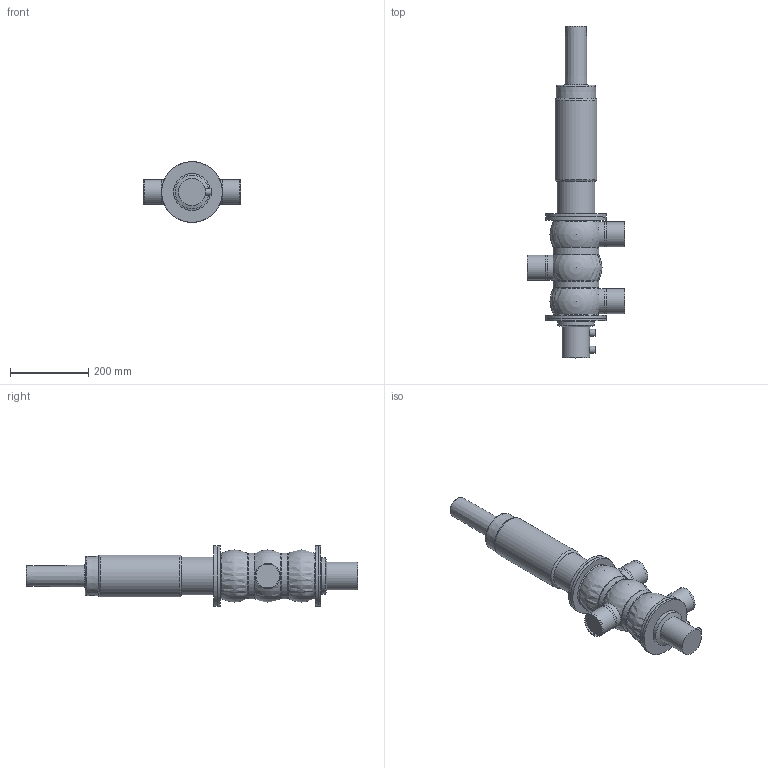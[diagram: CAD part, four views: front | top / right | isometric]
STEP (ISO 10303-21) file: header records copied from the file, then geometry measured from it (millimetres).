
FILE_DESCRIPTION(/* description */ ('Creo Elements/Direct Modeling STEP Export'),/* implementation_level */ '2;1');
FILE_NAME(/* name */ 'O:\Benutzer\Trimpop\DU4 SL\Makros\DU4 SL_VSM_stp\DU45(1-7-9)-2,5inch SL_VSM.stp',/* time_stamp */ '2021-10-01T14:15:00+02:00',/* author */ ('KERAMN'),/* organization */ (''),/* preprocessor_version */ 'ST-DEVELOPER v18.1',/* originating_system */ 'Autodesk Inventor 2020',/* authorisation */ '');
FILE_SCHEMA (('AUTOMOTIVE_DESIGN { 1 0 10303 214 3 1 1 }'));
Length unit declared in the file: millimetre
Products named in the file (6): DU45(1-7-9)-2,5inch SL_VSM; actuator_D4SL-100_yoke; DU45-2,5T(1-7-9)_Shrinkwrap_1; lid housing DU4-62 simplified; drain_pipe_62; D4_Prox._holder
Assembly tree (5 placements, depth 2):
  DU45(1-7-9)-2,5inch SL_VSM
    actuator_D4SL-100_yoke
    DU45-2,5T(1-7-9)_Shrinkwrap_1
    lid housing DU4-62 simplified
    drain_pipe_62
    D4_Prox._holder
Bounding box: 250 x 847.25 x 155 mm (x, y, z)
Volume: 7773673.8 mm3; surface area: 483364.8 mm2
Topology: 5 solids, 5 shells, 84 faces, 192 edges, 141 vertices
Faces by surface type: plane 35, cylinder 32, torus 7, cone 4, sphere 3, bspline 3
Full cylindrical faces by diameter (mm): 18 x2, 60 x1, 60.3 x3, 63.5 x3, 64.5 x3, 68 x1, 70 x1, 82.9 x1, 85 x1, 85.1 x1, 94 x1, 96 x1, 107 x1, 115.4 x6, 117 x2, 155 x4
Entity records: 2922 total; most frequent: CARTESIAN_POINT 665, DIRECTION 510, ORIENTED_EDGE 372, AXIS2_PLACEMENT_3D 236, EDGE_CURVE 186, CIRCLE 143, VERTEX_POINT 141, EDGE_LOOP 113
